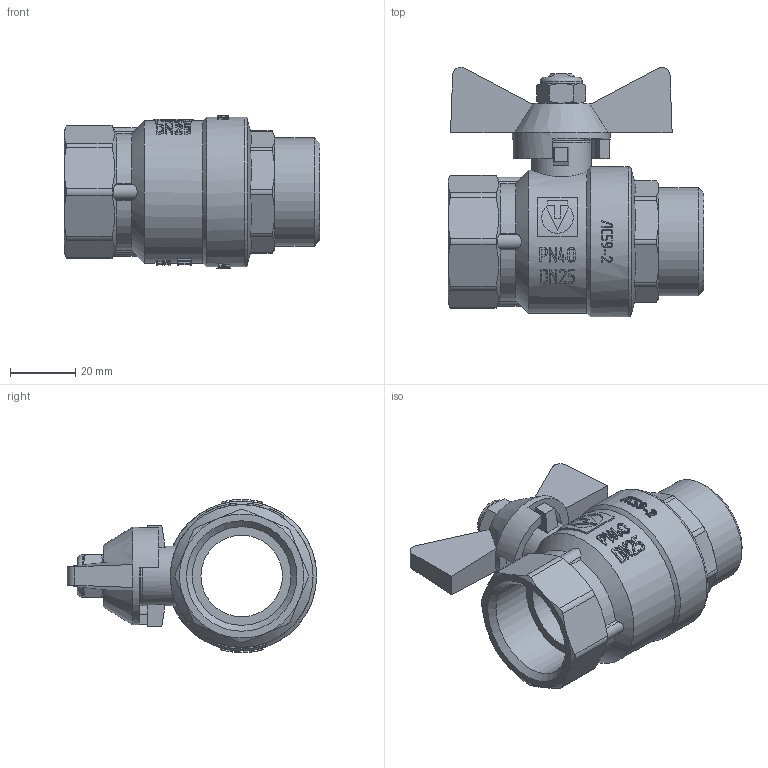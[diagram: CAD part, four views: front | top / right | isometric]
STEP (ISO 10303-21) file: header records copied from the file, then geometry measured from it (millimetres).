
FILE_DESCRIPTION(('STEP AP203'), '1');
FILE_NAME('VT.218S.N.06', '', ('UNSPECIFIED'), ('UNSPECIFIED'), 'C3D Converter', 'C3D Toolkit', '');
FILE_SCHEMA(('CONFIG_CONTROL_DESIGN'));
Length unit declared in the file: millimetre
Products named in the file (1): ВР.491816.014.000 СБ
Bounding box: 78.5 x 76.5 x 47 mm (x, y, z)
Volume: 71094.2 mm3; surface area: 24728.3 mm2
Topology: 1 solids, 1 shells, 849 faces, 2328 edges, 1533 vertices
Faces by surface type: extrusion 371, plane 322, cylinder 93, cone 56, bspline 4, torus 3
Full cylindrical faces by diameter (mm): 9.5 x1, 12.1 x1, 13 x1, 14 x1, 18.3 x1, 24 x1, 25 x1, 30 x1, 30.292 x1, 33.249 x1, 43.8 x1, 46 x1
Entity records: 44626 total; most frequent: CARTESIAN_POINT 24877, ORIENTED_EDGE 4584, DIRECTION 2985, EDGE_CURVE 2292, VERTEX_POINT 1528, VECTOR 1325, B_SPLINE_CURVE_WITH_KNOTS 1296, LINE 954
